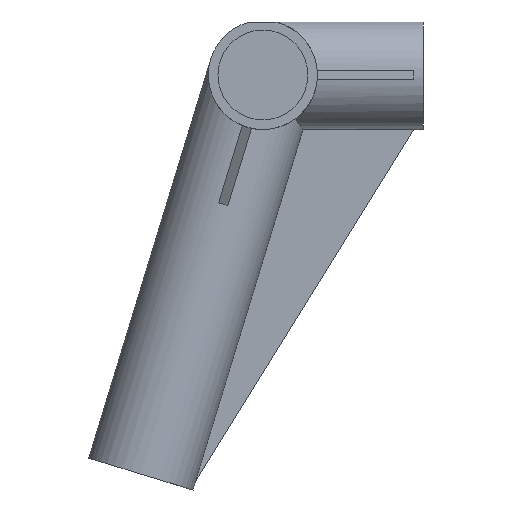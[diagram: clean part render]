
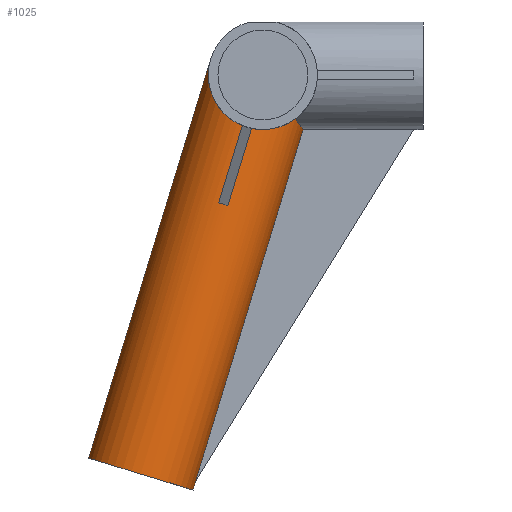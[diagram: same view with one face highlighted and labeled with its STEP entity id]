
A CAD part, left-side view. The second image highlights one B-rep face of the part: STEP entity #1025.
In plain terms, the highlighted cylindrical face has radius 17 mm (diameter 34 mm), a partial arc.
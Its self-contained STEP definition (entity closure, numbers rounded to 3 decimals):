
#14 = ORIENTED_EDGE ( 'NONE', *, *, #1137, .F. ) ;
#24 = VERTEX_POINT ( 'NONE', #367 ) ;
#28 = CARTESIAN_POINT ( 'NONE',  ( -16.498, -1.316, -17.654 ) ) ;
#29 = VERTEX_POINT ( 'NONE', #296 ) ;
#36 = CARTESIAN_POINT ( 'NONE',  ( -9.274, 18.969, -3.899 ) ) ;
#50 = EDGE_LOOP ( 'NONE', ( #230, #378, #1176, #432, #14, #645, #979, #467, #779, #235, #417 ) ) ;
#56 = CARTESIAN_POINT ( 'NONE',  ( -10.112, -10.112, -13.666 ) ) ;
#58 = CARTESIAN_POINT ( 'NONE',  ( -16.934, 13.753, -39.853 ) ) ;
#79 =( BOUNDED_CURVE ( )  B_SPLINE_CURVE ( 3, ( #56, #610, #418, #237 ),
 .UNSPECIFIED., .F., .T. ) 
 B_SPLINE_CURVE_WITH_KNOTS ( ( 4, 4 ),
 ( 5.646, 6.195 ),
 .UNSPECIFIED. ) 
 CURVE ( )  GEOMETRIC_REPRESENTATION_ITEM ( )  RATIONAL_B_SPLINE_CURVE ( ( 1., 0.975, 0.975, 1. ) ) 
 REPRESENTATION_ITEM ( '' )  );
#80 = CARTESIAN_POINT ( 'NONE',  ( -17.022, 11.787, -40.269 ) ) ;
#85 = CARTESIAN_POINT ( 'NONE',  ( -0.501, 20.874, -126.421 ) ) ;
#90 = VERTEX_POINT ( 'NONE', #204 ) ;
#102 = VECTOR ( 'NONE', #928, 1000. ) ;
#103 = CARTESIAN_POINT ( 'NONE',  ( 0., 16.257, 4.97 ) ) ;
#117 = CARTESIAN_POINT ( 'NONE',  ( -1.5, 21.815, -129.271 ) ) ;
#135 = DIRECTION ( 'NONE',  ( 0., -0.292, 0.956 ) ) ;
#143 = EDGE_CURVE ( 'NONE', #90, #29, #725, .T. ) ;
#157 = DIRECTION ( 'NONE',  ( 0., -0.956, -0.292 ) ) ;
#159 = CARTESIAN_POINT ( 'NONE',  ( 0., 21.751, -129.29 ) ) ;
#184 = EDGE_CURVE ( 'NONE', #24, #630, #1156, .T. ) ;
#204 = CARTESIAN_POINT ( 'NONE',  ( -16.934, 3.516, -16.632 ) ) ;
#230 = ORIENTED_EDGE ( 'NONE', *, *, #557, .F. ) ;
#235 = ORIENTED_EDGE ( 'NONE', *, *, #435, .F. ) ;
#237 = CARTESIAN_POINT ( 'NONE',  ( -1.5, -12.53, -16.934 ) ) ;
#296 = CARTESIAN_POINT ( 'NONE',  ( -10.112, -10.112, -13.666 ) ) ;
#367 = CARTESIAN_POINT ( 'NONE',  ( 0., 21.751, -129.29 ) ) ;
#378 = ORIENTED_EDGE ( 'NONE', *, *, #705, .T. ) ;
#379 = CARTESIAN_POINT ( 'NONE',  ( -16.934, 10.884, -40.73 ) ) ;
#381 = AXIS2_PLACEMENT_3D ( 'NONE', #427, #135, #157 ) ;
#398 = CARTESIAN_POINT ( 'NONE',  ( 0., 38.008, -124.32 ) ) ;
#417 = ORIENTED_EDGE ( 'NONE', *, *, #423, .F. ) ;
#418 = CARTESIAN_POINT ( 'NONE',  ( -4.637, -12.325, -16.656 ) ) ;
#421 = CARTESIAN_POINT ( 'NONE',  ( -16.934, 36.574, -124.758 ) ) ;
#422 = VECTOR ( 'NONE', #780, 1000. ) ;
#423 = EDGE_CURVE ( 'NONE', #478, #1116, #452, .T. ) ;
#427 = CARTESIAN_POINT ( 'NONE',  ( 0., 38.008, -124.32 ) ) ;
#432 = ORIENTED_EDGE ( 'NONE', *, *, #639, .T. ) ;
#435 = EDGE_CURVE ( 'NONE', #1116, #806, #829, .T. ) ;
#452 =( BOUNDED_CURVE ( )  B_SPLINE_CURVE ( 3, ( #103, #36, #500, #1117 ),
 .UNSPECIFIED., .F., .T. ) 
 B_SPLINE_CURVE_WITH_KNOTS ( ( 4, 4 ),
 ( 4.712, 6.195 ),
 .UNSPECIFIED. ) 
 CURVE ( )  GEOMETRIC_REPRESENTATION_ITEM ( )  RATIONAL_B_SPLINE_CURVE ( ( 1., 0.825, 0.825, 1. ) ) 
 REPRESENTATION_ITEM ( '' )  );
#456 = CARTESIAN_POINT ( 'NONE',  ( -17.022, 12.746, -39.976 ) ) ;
#466 = CARTESIAN_POINT ( 'NONE',  ( -16.934, 6.385, -15.755 ) ) ;
#467 = ORIENTED_EDGE ( 'NONE', *, *, #825, .T. ) ;
#471 = DIRECTION ( 'NONE',  ( 0., -0.292, 0.956 ) ) ;
#478 = VERTEX_POINT ( 'NONE', #989 ) ;
#488 = VERTEX_POINT ( 'NONE', #1038 ) ;
#500 = CARTESIAN_POINT ( 'NONE',  ( -16.115, 14.981, -12.272 ) ) ;
#525 = CYLINDRICAL_SURFACE ( 'NONE', #381, 17. ) ;
#531 = DIRECTION ( 'NONE',  ( 0., -0.292, 0.956 ) ) ;
#538 = CARTESIAN_POINT ( 'NONE',  ( -1.5, 21.011, -126.641 ) ) ;
#556 = CARTESIAN_POINT ( 'NONE',  ( 0., 54.266, -119.349 ) ) ;
#557 = EDGE_CURVE ( 'NONE', #651, #478, #569, .T. ) ;
#569 = LINE ( 'NONE', #807, #726 ) ;
#584 = CARTESIAN_POINT ( 'NONE',  ( -16.934, 39.443, -123.881 ) ) ;
#589 = DIRECTION ( 'NONE',  ( 0., -0.956, -0.292 ) ) ;
#597 = EDGE_CURVE ( 'NONE', #976, #806, #781, .T. ) ;
#610 = CARTESIAN_POINT ( 'NONE',  ( -7.581, -11.498, -15.539 ) ) ;
#626 = CIRCLE ( 'NONE', #971, 17. ) ;
#630 = VERTEX_POINT ( 'NONE', #722 ) ;
#638 = CARTESIAN_POINT ( 'NONE',  ( -1.001, 20.92, -126.495 ) ) ;
#639 = EDGE_CURVE ( 'NONE', #630, #738, #647, .T. ) ;
#644 = VECTOR ( 'NONE', #839, 1000. ) ;
#645 = ORIENTED_EDGE ( 'NONE', *, *, #1049, .F. ) ;
#647 =( BOUNDED_CURVE ( )  B_SPLINE_CURVE ( 3, ( #996, #85, #638, #919 ),
 .UNSPECIFIED., .F., .T. ) 
 B_SPLINE_CURVE_WITH_KNOTS ( ( 4, 4 ),
 ( 0., 0.088 ),
 .UNSPECIFIED. ) 
 CURVE ( )  GEOMETRIC_REPRESENTATION_ITEM ( )  RATIONAL_B_SPLINE_CURVE ( ( 1., 0.999, 0.999, 1. ) ) 
 REPRESENTATION_ITEM ( '' )  );
#651 = VERTEX_POINT ( 'NONE', #556 ) ;
#669 = LINE ( 'NONE', #117, #644 ) ;
#705 = EDGE_CURVE ( 'NONE', #651, #24, #626, .T. ) ;
#722 = CARTESIAN_POINT ( 'NONE',  ( 0., 20.874, -126.421 ) ) ;
#725 =( BOUNDED_CURVE ( )  B_SPLINE_CURVE ( 3, ( #845, #28, #750, #1024 ),
 .UNSPECIFIED., .F., .T. ) 
 B_SPLINE_CURVE_WITH_KNOTS ( ( 4, 4 ),
 ( 0.088, 0.934 ),
 .UNSPECIFIED. ) 
 CURVE ( )  GEOMETRIC_REPRESENTATION_ITEM ( )  RATIONAL_B_SPLINE_CURVE ( ( 1., 0.941, 0.941, 1. ) ) 
 REPRESENTATION_ITEM ( '' )  );
#726 = VECTOR ( 'NONE', #471, 1000. ) ;
#738 = VERTEX_POINT ( 'NONE', #538 ) ;
#750 = CARTESIAN_POINT ( 'NONE',  ( -14.082, -6.142, -16.603 ) ) ;
#759 = DIRECTION ( 'NONE',  ( 0., -0.292, 0.956 ) ) ;
#769 = CARTESIAN_POINT ( 'NONE',  ( -16.934, 10.884, -40.73 ) ) ;
#779 = ORIENTED_EDGE ( 'NONE', *, *, #597, .T. ) ;
#780 = DIRECTION ( 'NONE',  ( 0., 0.292, -0.956 ) ) ;
#781 =( BOUNDED_CURVE ( )  B_SPLINE_CURVE ( 3, ( #379, #80, #456, #1008 ),
 .UNSPECIFIED., .F., .T. ) 
 B_SPLINE_CURVE_WITH_KNOTS ( ( 4, 4 ),
 ( 6.195, 6.372 ),
 .UNSPECIFIED. ) 
 CURVE ( )  GEOMETRIC_REPRESENTATION_ITEM ( )  RATIONAL_B_SPLINE_CURVE ( ( 1., 0.997, 0.997, 1. ) ) 
 REPRESENTATION_ITEM ( '' )  );
#806 = VERTEX_POINT ( 'NONE', #58 ) ;
#807 = CARTESIAN_POINT ( 'NONE',  ( 0., 54.266, -119.349 ) ) ;
#825 = EDGE_CURVE ( 'NONE', #90, #976, #1066, .T. ) ;
#829 = LINE ( 'NONE', #584, #102 ) ;
#839 = DIRECTION ( 'NONE',  ( 0., 0.292, -0.956 ) ) ;
#845 = CARTESIAN_POINT ( 'NONE',  ( -16.934, 3.516, -16.632 ) ) ;
#919 = CARTESIAN_POINT ( 'NONE',  ( -1.5, 21.011, -126.641 ) ) ;
#928 = DIRECTION ( 'NONE',  ( 0., 0.292, -0.956 ) ) ;
#959 = FACE_OUTER_BOUND ( 'NONE', #50, .T. ) ;
#971 = AXIS2_PLACEMENT_3D ( 'NONE', #398, #759, #589 ) ;
#976 = VERTEX_POINT ( 'NONE', #769 ) ;
#979 = ORIENTED_EDGE ( 'NONE', *, *, #143, .F. ) ;
#989 = CARTESIAN_POINT ( 'NONE',  ( 0., 16.257, 4.97 ) ) ;
#996 = CARTESIAN_POINT ( 'NONE',  ( 0., 20.874, -126.421 ) ) ;
#1008 = CARTESIAN_POINT ( 'NONE',  ( -16.934, 13.753, -39.853 ) ) ;
#1024 = CARTESIAN_POINT ( 'NONE',  ( -10.112, -10.112, -13.666 ) ) ;
#1025 = ADVANCED_FACE ( 'NONE', ( #959 ), #525, .T. ) ;
#1038 = CARTESIAN_POINT ( 'NONE',  ( -1.5, -12.53, -16.934 ) ) ;
#1049 = EDGE_CURVE ( 'NONE', #29, #488, #79, .T. ) ;
#1066 = LINE ( 'NONE', #421, #422 ) ;
#1090 = VECTOR ( 'NONE', #531, 1000. ) ;
#1116 = VERTEX_POINT ( 'NONE', #466 ) ;
#1117 = CARTESIAN_POINT ( 'NONE',  ( -16.934, 6.385, -15.755 ) ) ;
#1137 = EDGE_CURVE ( 'NONE', #488, #738, #669, .T. ) ;
#1156 = LINE ( 'NONE', #159, #1090 ) ;
#1176 = ORIENTED_EDGE ( 'NONE', *, *, #184, .T. ) ;
